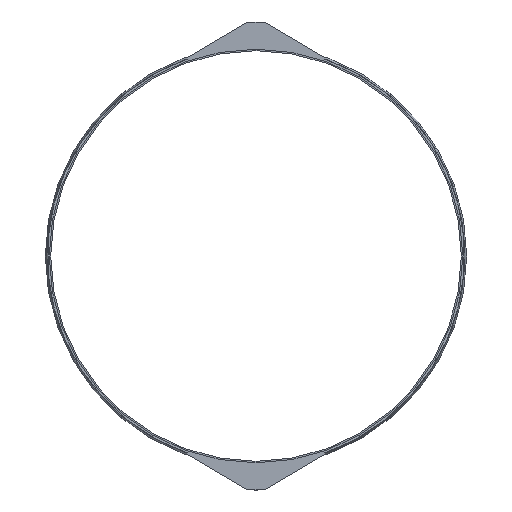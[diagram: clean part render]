
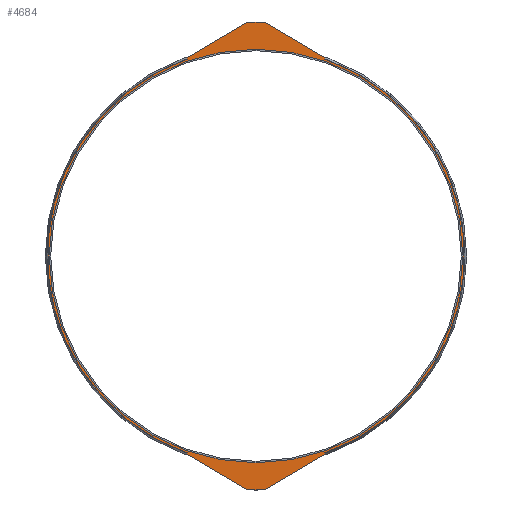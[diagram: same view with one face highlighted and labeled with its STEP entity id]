
A CAD part, left-side view. The second image highlights one B-rep face of the part: STEP entity #4684.
In plain terms, the highlighted planar face has unit normal (-1, 0, 0).
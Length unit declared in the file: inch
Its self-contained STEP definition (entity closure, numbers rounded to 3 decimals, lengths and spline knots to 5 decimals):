
#134=FACE_BOUND('',#814,.T.);
#300=PLANE('',#5095);
#539=FACE_OUTER_BOUND('',#813,.T.);
#813=EDGE_LOOP('',(#4140,#4141,#4142,#4143,#4144,#4145,#4146,#4147,#4148,
#4149,#4150,#4151,#4152,#4153,#4154,#4155,#4156,#4157,#4158,#4159));
#814=EDGE_LOOP('',(#4160,#4161));
#973=LINE('',#6759,#1422);
#977=LINE('',#6771,#1426);
#981=LINE('',#6783,#1430);
#985=LINE('',#6795,#1434);
#987=LINE('',#6800,#1436);
#1206=LINE('',#7611,#1655);
#1210=LINE('',#7623,#1659);
#1214=LINE('',#7635,#1663);
#1218=LINE('',#7645,#1667);
#1221=LINE('',#7651,#1670);
#1422=VECTOR('',#5479,0.3937);
#1426=VECTOR('',#5491,0.3937);
#1430=VECTOR('',#5503,0.3937);
#1434=VECTOR('',#5515,0.3937);
#1436=VECTOR('',#5519,0.3937);
#1655=VECTOR('',#6082,0.3937);
#1659=VECTOR('',#6094,0.3937);
#1663=VECTOR('',#6106,0.3937);
#1667=VECTOR('',#6118,0.3937);
#1670=VECTOR('',#6123,0.3937);
#1739=CIRCLE('',#4808,0.063);
#1741=CIRCLE('',#4812,0.125);
#1743=CIRCLE('',#4816,0.125);
#1745=CIRCLE('',#4820,0.063);
#1750=CIRCLE('',#4829,54.5);
#1803=CIRCLE('',#4993,0.063);
#1805=CIRCLE('',#4997,0.125);
#1807=CIRCLE('',#5001,0.125);
#1809=CIRCLE('',#5005,0.063);
#1811=CIRCLE('',#5011,54.5);
#1863=CIRCLE('',#5093,54.);
#1864=CIRCLE('',#5094,54.);
#1988=VERTEX_POINT('',#6749);
#1989=VERTEX_POINT('',#6751);
#1991=VERTEX_POINT('',#6757);
#1993=VERTEX_POINT('',#6763);
#1995=VERTEX_POINT('',#6769);
#1997=VERTEX_POINT('',#6775);
#1999=VERTEX_POINT('',#6781);
#2001=VERTEX_POINT('',#6787);
#2003=VERTEX_POINT('',#6793);
#2005=VERTEX_POINT('',#6799);
#2014=VERTEX_POINT('',#6821);
#2206=VERTEX_POINT('',#7602);
#2207=VERTEX_POINT('',#7604);
#2209=VERTEX_POINT('',#7610);
#2211=VERTEX_POINT('',#7616);
#2213=VERTEX_POINT('',#7622);
#2215=VERTEX_POINT('',#7628);
#2217=VERTEX_POINT('',#7634);
#2219=VERTEX_POINT('',#7640);
#2221=VERTEX_POINT('',#7649);
#2285=VERTEX_POINT('',#7841);
#2286=VERTEX_POINT('',#7843);
#2468=EDGE_CURVE('',#1988,#1989,#1739,.T.);
#2472=EDGE_CURVE('',#1991,#1988,#973,.T.);
#2475=EDGE_CURVE('',#1993,#1991,#1741,.T.);
#2478=EDGE_CURVE('',#1995,#1993,#977,.T.);
#2481=EDGE_CURVE('',#1997,#1995,#1743,.T.);
#2484=EDGE_CURVE('',#1999,#1997,#981,.T.);
#2487=EDGE_CURVE('',#2001,#1999,#1745,.T.);
#2490=EDGE_CURVE('',#2003,#2001,#985,.T.);
#2492=EDGE_CURVE('',#1989,#2005,#987,.T.);
#2504=EDGE_CURVE('',#2014,#2003,#1750,.T.);
#2790=EDGE_CURVE('',#2207,#2206,#1803,.T.);
#2793=EDGE_CURVE('',#2209,#2207,#1206,.T.);
#2796=EDGE_CURVE('',#2211,#2209,#1805,.T.);
#2799=EDGE_CURVE('',#2213,#2211,#1210,.T.);
#2802=EDGE_CURVE('',#2215,#2213,#1807,.T.);
#2805=EDGE_CURVE('',#2217,#2215,#1214,.T.);
#2808=EDGE_CURVE('',#2219,#2217,#1809,.T.);
#2811=EDGE_CURVE('',#2014,#2219,#1218,.T.);
#2814=EDGE_CURVE('',#2206,#2221,#1221,.T.);
#2819=EDGE_CURVE('',#2005,#2221,#1811,.T.);
#2910=EDGE_CURVE('',#2286,#2285,#1863,.T.);
#2911=EDGE_CURVE('',#2285,#2286,#1864,.T.);
#4140=ORIENTED_EDGE('',*,*,#2504,.F.);
#4141=ORIENTED_EDGE('',*,*,#2811,.T.);
#4142=ORIENTED_EDGE('',*,*,#2808,.T.);
#4143=ORIENTED_EDGE('',*,*,#2805,.T.);
#4144=ORIENTED_EDGE('',*,*,#2802,.T.);
#4145=ORIENTED_EDGE('',*,*,#2799,.T.);
#4146=ORIENTED_EDGE('',*,*,#2796,.T.);
#4147=ORIENTED_EDGE('',*,*,#2793,.T.);
#4148=ORIENTED_EDGE('',*,*,#2790,.T.);
#4149=ORIENTED_EDGE('',*,*,#2814,.T.);
#4150=ORIENTED_EDGE('',*,*,#2819,.F.);
#4151=ORIENTED_EDGE('',*,*,#2492,.F.);
#4152=ORIENTED_EDGE('',*,*,#2468,.F.);
#4153=ORIENTED_EDGE('',*,*,#2472,.F.);
#4154=ORIENTED_EDGE('',*,*,#2475,.F.);
#4155=ORIENTED_EDGE('',*,*,#2478,.F.);
#4156=ORIENTED_EDGE('',*,*,#2481,.F.);
#4157=ORIENTED_EDGE('',*,*,#2484,.F.);
#4158=ORIENTED_EDGE('',*,*,#2487,.F.);
#4159=ORIENTED_EDGE('',*,*,#2490,.F.);
#4160=ORIENTED_EDGE('',*,*,#2910,.T.);
#4161=ORIENTED_EDGE('',*,*,#2911,.T.);
#4684=ADVANCED_FACE('',(#539,#134),#300,.T.);
#4808=AXIS2_PLACEMENT_3D('',#6752,#5472,#5473);
#4812=AXIS2_PLACEMENT_3D('',#6765,#5485,#5486);
#4816=AXIS2_PLACEMENT_3D('',#6777,#5497,#5498);
#4820=AXIS2_PLACEMENT_3D('',#6789,#5509,#5510);
#4829=AXIS2_PLACEMENT_3D('',#6823,#5539,#5540);
#4993=AXIS2_PLACEMENT_3D('',#7605,#6076,#6077);
#4997=AXIS2_PLACEMENT_3D('',#7617,#6088,#6089);
#5001=AXIS2_PLACEMENT_3D('',#7629,#6100,#6101);
#5005=AXIS2_PLACEMENT_3D('',#7641,#6112,#6113);
#5011=AXIS2_PLACEMENT_3D('',#7661,#6133,#6134);
#5093=AXIS2_PLACEMENT_3D('',#7844,#6336,#6337);
#5094=AXIS2_PLACEMENT_3D('',#7845,#6338,#6339);
#5095=AXIS2_PLACEMENT_3D('',#7846,#6340,#6341);
#5472=DIRECTION('center_axis',(1.,0.,0.));
#5473=DIRECTION('ref_axis',(0.,-1.,0.));
#5479=DIRECTION('',(0.,0.862,0.507));
#5485=DIRECTION('center_axis',(1.,0.,0.));
#5486=DIRECTION('ref_axis',(0.,-0.507,0.862));
#5491=DIRECTION('',(0.,1.,0.));
#5497=DIRECTION('center_axis',(1.,0.,0.));
#5498=DIRECTION('ref_axis',(0.,0.,1.));
#5503=DIRECTION('',(0.,0.862,-0.507));
#5509=DIRECTION('center_axis',(1.,0.,0.));
#5510=DIRECTION('ref_axis',(0.,0.507,0.862));
#5515=DIRECTION('',(0.,0.,-1.));
#5519=DIRECTION('',(0.,0.,1.));
#5539=DIRECTION('center_axis',(1.,0.,0.));
#5540=DIRECTION('ref_axis',(0.,0.,-1.));
#6076=DIRECTION('center_axis',(-1.,0.,0.));
#6077=DIRECTION('ref_axis',(0.,-1.,0.));
#6082=DIRECTION('',(0.,0.862,-0.507));
#6088=DIRECTION('center_axis',(-1.,0.,0.));
#6089=DIRECTION('ref_axis',(0.,-0.507,-0.862));
#6094=DIRECTION('',(0.,1.,0.));
#6100=DIRECTION('center_axis',(-1.,0.,0.));
#6101=DIRECTION('ref_axis',(0.,0.,-1.));
#6106=DIRECTION('',(0.,0.862,0.507));
#6112=DIRECTION('center_axis',(-1.,0.,0.));
#6113=DIRECTION('ref_axis',(0.,0.507,-0.862));
#6118=DIRECTION('',(0.,0.,1.));
#6123=DIRECTION('',(0.,0.,-1.));
#6133=DIRECTION('center_axis',(1.,0.,0.));
#6134=DIRECTION('ref_axis',(0.,0.,-1.));
#6336=DIRECTION('center_axis',(1.,0.,0.));
#6337=DIRECTION('ref_axis',(0.,0.,-1.));
#6338=DIRECTION('center_axis',(1.,0.,0.));
#6339=DIRECTION('ref_axis',(0.,0.,-1.));
#6340=DIRECTION('center_axis',(-1.,0.,0.));
#6341=DIRECTION('ref_axis',(0.,0.,1.));
#6749=CARTESIAN_POINT('',(-7.375,17.96896,-51.83499));
#6751=CARTESIAN_POINT('',(-7.375,18.,-51.7807));
#6752=CARTESIAN_POINT('Origin',(-7.375,17.937,-51.7807));
#6757=CARTESIAN_POINT('',(-7.375,2.42935,-60.98272));
#6759=CARTESIAN_POINT('',(-7.375,2.42935,-60.98272));
#6763=CARTESIAN_POINT('',(-7.375,2.36594,-61.));
#6765=CARTESIAN_POINT('Origin',(-7.375,2.36594,-60.875));
#6769=CARTESIAN_POINT('',(-7.375,-2.36594,-61.));
#6771=CARTESIAN_POINT('',(-7.375,0.,-61.));
#6775=CARTESIAN_POINT('',(-7.375,-2.42935,-60.98272));
#6777=CARTESIAN_POINT('Origin',(-7.375,-2.36594,-60.875));
#6781=CARTESIAN_POINT('',(-7.375,-17.96896,-51.83499));
#6783=CARTESIAN_POINT('',(-7.375,-17.96896,-51.83499));
#6787=CARTESIAN_POINT('',(-7.375,-18.,-51.7807));
#6789=CARTESIAN_POINT('Origin',(-7.375,-17.937,-51.7807));
#6793=CARTESIAN_POINT('',(-7.375,-18.,-51.44171));
#6795=CARTESIAN_POINT('',(-7.375,-18.,-51.44171));
#6799=CARTESIAN_POINT('',(-7.375,18.,-51.44171));
#6800=CARTESIAN_POINT('',(-7.375,18.,-51.7807));
#6821=CARTESIAN_POINT('',(-7.375,-18.,51.44171));
#6823=CARTESIAN_POINT('Origin',(-7.375,0.,0.));
#7602=CARTESIAN_POINT('',(-7.375,18.,51.7807));
#7604=CARTESIAN_POINT('',(-7.375,17.96896,51.83499));
#7605=CARTESIAN_POINT('Origin',(-7.375,17.937,51.7807));
#7610=CARTESIAN_POINT('',(-7.375,2.42935,60.98272));
#7611=CARTESIAN_POINT('',(-7.375,2.42935,60.98272));
#7616=CARTESIAN_POINT('',(-7.375,2.36594,61.));
#7617=CARTESIAN_POINT('Origin',(-7.375,2.36594,60.875));
#7622=CARTESIAN_POINT('',(-7.375,-2.36594,61.));
#7623=CARTESIAN_POINT('',(-7.375,0.,61.));
#7628=CARTESIAN_POINT('',(-7.375,-2.42935,60.98272));
#7629=CARTESIAN_POINT('Origin',(-7.375,-2.36594,60.875));
#7634=CARTESIAN_POINT('',(-7.375,-17.96896,51.83499));
#7635=CARTESIAN_POINT('',(-7.375,-17.96896,51.83499));
#7640=CARTESIAN_POINT('',(-7.375,-18.,51.7807));
#7641=CARTESIAN_POINT('Origin',(-7.375,-17.937,51.7807));
#7645=CARTESIAN_POINT('',(-7.375,-18.,51.44171));
#7649=CARTESIAN_POINT('',(-7.375,18.,51.44171));
#7651=CARTESIAN_POINT('',(-7.375,18.,51.7807));
#7661=CARTESIAN_POINT('Origin',(-7.375,0.,0.));
#7841=CARTESIAN_POINT('',(-7.375,-54.,0.));
#7843=CARTESIAN_POINT('',(-7.375,54.,0.));
#7844=CARTESIAN_POINT('Origin',(-7.375,0.,0.));
#7845=CARTESIAN_POINT('Origin',(-7.375,0.,0.));
#7846=CARTESIAN_POINT('Origin',(-7.375,54.5,0.));
